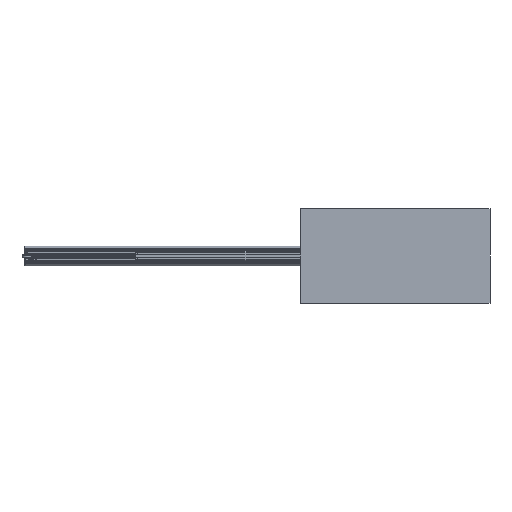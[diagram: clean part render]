
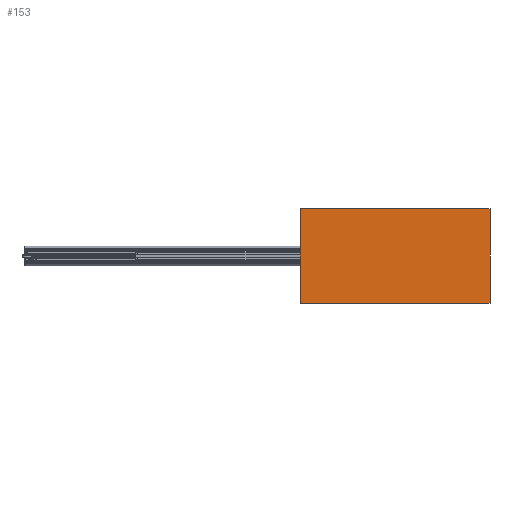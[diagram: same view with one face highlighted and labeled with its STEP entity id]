
A CAD part, front view. The second image highlights one B-rep face of the part: STEP entity #153.
In plain terms, the highlighted planar face has unit normal (0, -1, 0).
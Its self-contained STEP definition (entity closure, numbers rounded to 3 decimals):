
#153 = ADVANCED_FACE ( 'NONE', ( #4691 ), #11899, .T. ) ;
#1483 = CARTESIAN_POINT ( 'NONE',  ( 0., -10., -600. ) ) ;
#1929 = VERTEX_POINT ( 'NONE', #19284 ) ;
#1973 = VERTEX_POINT ( 'NONE', #5758 ) ;
#3991 = LINE ( 'NONE', #1483, #28737 ) ;
#4015 = CARTESIAN_POINT ( 'NONE',  ( 0., -10., 0. ) ) ;
#4691 = FACE_OUTER_BOUND ( 'NONE', #26030, .T. ) ;
#5758 = CARTESIAN_POINT ( 'NONE',  ( 0., -10., -600. ) ) ;
#9340 = DIRECTION ( 'NONE',  ( 0., 0., 1. ) ) ;
#9808 = LINE ( 'NONE', #19390, #20357 ) ;
#10429 = DIRECTION ( 'NONE',  ( 1., 0., 0. ) ) ;
#11509 = ORIENTED_EDGE ( 'NONE', *, *, #22628, .F. ) ;
#11899 = PLANE ( 'NONE',  #13138 ) ;
#12190 = DIRECTION ( 'NONE',  ( 0., 0., -1. ) ) ;
#12688 = VERTEX_POINT ( 'NONE', #16688 ) ;
#13138 = AXIS2_PLACEMENT_3D ( 'NONE', #23995, #14114, #23687 ) ;
#13208 = VECTOR ( 'NONE', #12190, 1000. ) ;
#13880 = DIRECTION ( 'NONE',  ( -1., 0., 0. ) ) ;
#14114 = DIRECTION ( 'NONE',  ( 0., -1., 0. ) ) ;
#14228 = VECTOR ( 'NONE', #10429, 1000. ) ;
#14243 = ORIENTED_EDGE ( 'NONE', *, *, #29103, .F. ) ;
#14822 = EDGE_CURVE ( 'NONE', #1973, #15909, #9808, .T. ) ;
#15909 = VERTEX_POINT ( 'NONE', #4015 ) ;
#16688 = CARTESIAN_POINT ( 'NONE',  ( 1200., -10., -600. ) ) ;
#17879 = ORIENTED_EDGE ( 'NONE', *, *, #22468, .F. ) ;
#19284 = CARTESIAN_POINT ( 'NONE',  ( 1200., -10., 0. ) ) ;
#19390 = CARTESIAN_POINT ( 'NONE',  ( 0., -10., 0. ) ) ;
#20357 = VECTOR ( 'NONE', #9340, 1000. ) ;
#21391 = ORIENTED_EDGE ( 'NONE', *, *, #14822, .F. ) ;
#22468 = EDGE_CURVE ( 'NONE', #15909, #1929, #26915, .T. ) ;
#22628 = EDGE_CURVE ( 'NONE', #12688, #1973, #3991, .T. ) ;
#23687 = DIRECTION ( 'NONE',  ( 0., 0., -1. ) ) ;
#23995 = CARTESIAN_POINT ( 'NONE',  ( 0., -10., 0. ) ) ;
#24119 = LINE ( 'NONE', #26149, #13208 ) ;
#26030 = EDGE_LOOP ( 'NONE', ( #21391, #11509, #14243, #17879 ) ) ;
#26149 = CARTESIAN_POINT ( 'NONE',  ( 1200., -10., 0. ) ) ;
#26915 = LINE ( 'NONE', #29717, #14228 ) ;
#28737 = VECTOR ( 'NONE', #13880, 1000. ) ;
#29103 = EDGE_CURVE ( 'NONE', #1929, #12688, #24119, .T. ) ;
#29717 = CARTESIAN_POINT ( 'NONE',  ( 0., -10., 0. ) ) ;
